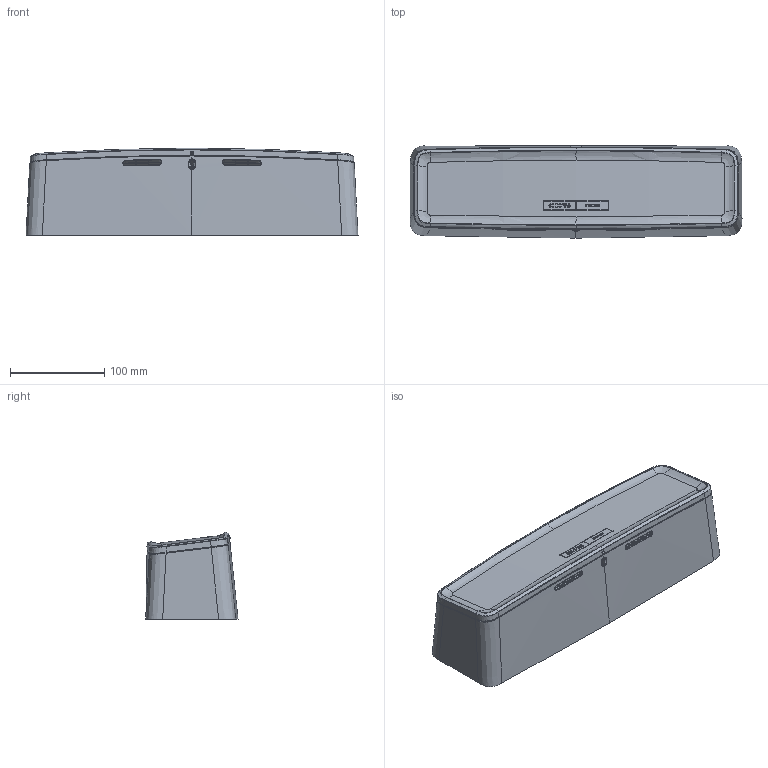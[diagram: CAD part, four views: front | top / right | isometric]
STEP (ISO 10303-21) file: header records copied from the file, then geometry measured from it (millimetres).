
FILE_DESCRIPTION (( 'STEP AP214' ), '1' );
FILE_NAME ('PureLine Airbar final.STEP', '2023-02-28T14:59:33', ( '' ), ( '' ), 'SwSTEP 2.0', 'SolidWorks 2023', '' );
FILE_SCHEMA (( 'AUTOMOTIVE_DESIGN' ));
Length unit declared in the file: millimetre
Products named in the file (12): 106151_LICHTLEITER_APOLLO.stp.STEP; 020371-000-00.stp.STEP; 061058-000-00.stp.STEP; CWS_LOGO_HYGIENE_AIRBAR_APOLLO.stp.STEP; 103164-000-00.stp.STEP; 061056-000-00.stp.STEP; PureLine Airbar.STEP; 103157_HAUBE_APOLLO_KOMPL.stp.STEP; 103158-000-00.stp.STEP; 20200421_103150_airbar_apollo_kompl.stp.STEP; PureLine Airbar final; 103157-000-00.stp.STEP
Assembly tree (12 placements, depth 5):
  PureLine Airbar final
    PureLine Airbar.STEP
      20200421_103150_airbar_apollo_kompl.stp.STEP
        103157_HAUBE_APOLLO_KOMPL.stp.STEP
          103157-000-00.stp.STEP
          103158-000-00.stp.STEP
          106151_LICHTLEITER_APOLLO.stp.STEP
          CWS_LOGO_HYGIENE_AIRBAR_APOLLO.stp.STEP
        061056-000-00.stp.STEP
        061058-000-00.stp.STEP
        020371-000-00.stp.STEP  x2
        103164-000-00.stp.STEP
Bounding box: 352.88 x 97.94 x 93.18 mm (x, y, z)
Volume: 524329.7 mm3; surface area: 474583.3 mm2
Topology: 19 solids, 19 shells, 6550 faces, 16725 edges, 10155 vertices
Faces by surface type: cylinder 2143, bspline 1963, plane 1919, sphere 344, cone 116, torus 65
Entity records: 322542 total; most frequent: CARTESIAN_POINT 182817, ORIENTED_EDGE 33390, DIRECTION 22816, EDGE_CURVE 16695, VERTEX_POINT 10145, AXIS2_PLACEMENT_3D 7932, VECTOR 6952, LINE 6952
